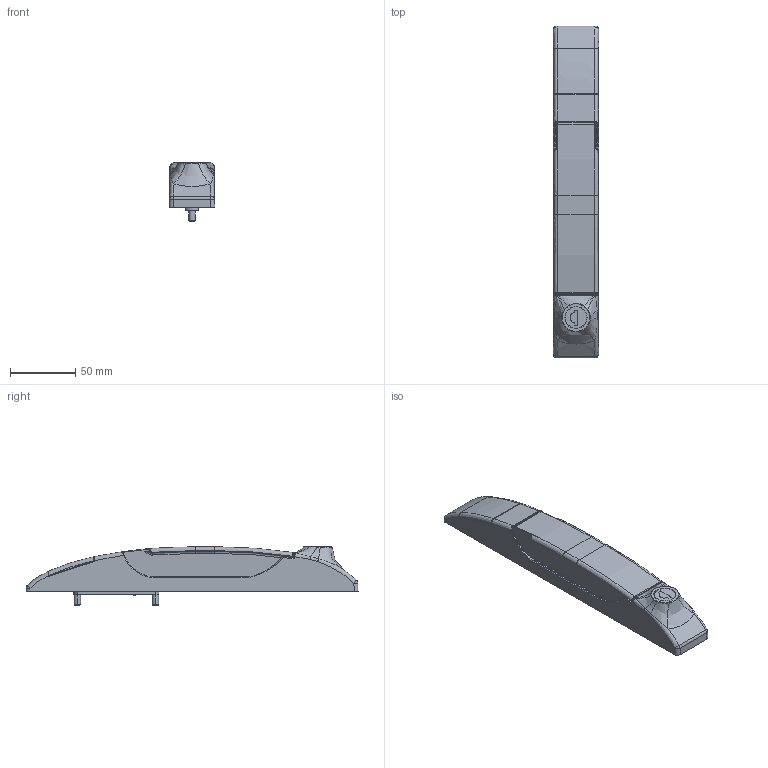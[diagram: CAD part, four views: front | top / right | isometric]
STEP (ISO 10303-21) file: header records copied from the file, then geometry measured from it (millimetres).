
FILE_DESCRIPTION (( 'STEP AP214' ), '1' );
FILE_NAME ('5.R00.117.001.01B.STEP', '2025-06-18T06:39:18', ( '' ), ( '' ), 'SwSTEP 2.0', 'SolidWorks 2021', '' );
FILE_SCHEMA (( 'AUTOMOTIVE_DESIGN' ));
Length unit declared in the file: millimetre
Products named in the file (1): 5.R00.117.001.01B
Bounding box: 35 x 255 x 44.9 mm (x, y, z)
Volume: 99391.5 mm3; surface area: 97756.5 mm2
Topology: 25 solids, 25 shells, 3903 faces, 9344 edges, 5413 vertices
Faces by surface type: cylinder 1322, bspline 905, plane 897, sphere 331, torus 245, cone 203
Entity records: 180422 total; most frequent: CARTESIAN_POINT 54379, ORIENTED_EDGE 18424, DIRECTION 16500, EDGE_CURVE 9212, AXIS2_PLACEMENT_3D 6467, VERTEX_POINT 5382, EDGE_LOOP 4000, UNCERTAINTY_MEASURE_WITH_UNIT 3930
